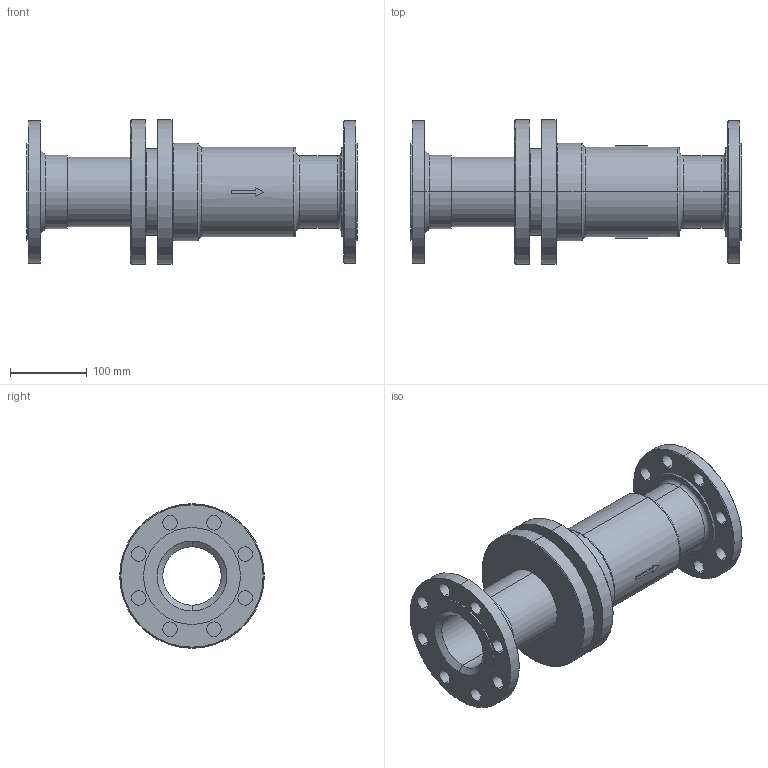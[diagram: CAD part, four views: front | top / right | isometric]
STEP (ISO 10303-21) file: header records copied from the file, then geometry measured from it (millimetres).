
FILE_DESCRIPTION( (''), '2;1');
FILE_NAME ('PC1027.9516.ES-10-100 80A_6782.stp','2025-07-30T12:56:22',(''),(''),'spGate 20.6.3 (****-****-****-****)','','');
FILE_SCHEMA (('AUTOMOTIVE_DESIGN'));
Length unit declared in the file: millimetre
Bounding box: 430 x 188 x 188 mm (x, y, z)
Volume: 3069501.2 mm3; surface area: 428555.2 mm2
Topology: 1 solids, 1 shells, 126 faces, 298 edges, 188 vertices
Faces by surface type: cylinder 60, bspline 36, plane 30
Entity records: 6499 total; most frequent: CARTESIAN_POINT 1300, ORIENTED_EDGE 596, DIRECTION 544, COLOUR_RGB 425, PRESENTATION_STYLE_ASSIGNMENT 425, STYLED_ITEM 425, EDGE_CURVE 298, DRAUGHTING_PRE_DEFINED_CURVE_FONT 298
